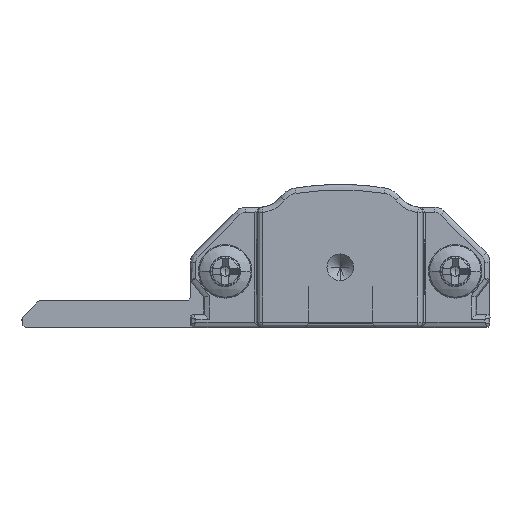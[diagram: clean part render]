
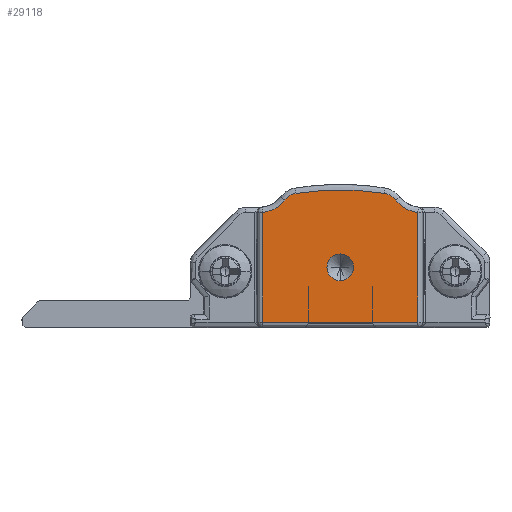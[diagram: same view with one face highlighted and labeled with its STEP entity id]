
A CAD part, front view. The second image highlights one B-rep face of the part: STEP entity #29118.
In plain terms, the highlighted planar face has unit normal (0, -1, 0).
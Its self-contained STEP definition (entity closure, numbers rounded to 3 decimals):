
#79 = VERTEX_POINT ( 'NONE', #14496 ) ;
#984 = DIRECTION ( 'NONE',  ( 0., 0., 1. ) ) ;
#1259 = EDGE_CURVE ( 'NONE', #16094, #79, #19007, .T. ) ;
#1314 = ORIENTED_EDGE ( 'NONE', *, *, #9106, .T. ) ;
#1353 = LINE ( 'NONE', #3546, #11746 ) ;
#1622 = DIRECTION ( 'NONE',  ( 0., -1., 0. ) ) ;
#2365 = AXIS2_PLACEMENT_3D ( 'NONE', #26762, #5553, #19247 ) ;
#2723 = CARTESIAN_POINT ( 'NONE',  ( 11.2, -15., 5.5 ) ) ;
#3368 = CIRCLE ( 'NONE', #30169, 20.676 ) ;
#3546 = CARTESIAN_POINT ( 'NONE',  ( 17., -15., 0.4 ) ) ;
#3773 = VECTOR ( 'NONE', #20934, 1000. ) ;
#3865 = AXIS2_PLACEMENT_3D ( 'NONE', #14636, #14788, #12318 ) ;
#4206 = EDGE_CURVE ( 'NONE', #21527, #24829, #21323, .T. ) ;
#5553 = DIRECTION ( 'NONE',  ( 0., 1., 0. ) ) ;
#5619 = DIRECTION ( 'NONE',  ( 0., 0., -1. ) ) ;
#6195 = CARTESIAN_POINT ( 'NONE',  ( 17., -15., 8.612 ) ) ;
#6278 = AXIS2_PLACEMENT_3D ( 'NONE', #8454, #20700, #13934 ) ;
#6612 = DIRECTION ( 'NONE',  ( 0., -1., 0. ) ) ;
#6657 = DIRECTION ( 'NONE',  ( 0., -1., 0. ) ) ;
#6888 = CARTESIAN_POINT ( 'NONE',  ( 11.2, -15., 3.5 ) ) ;
#7337 = ORIENTED_EDGE ( 'NONE', *, *, #9974, .T. ) ;
#7710 = CARTESIAN_POINT ( 'NONE',  ( 22.15, -15., 3.606 ) ) ;
#8454 = CARTESIAN_POINT ( 'NONE',  ( 14.3, -15., 8.75 ) ) ;
#8566 = CARTESIAN_POINT ( 'NONE',  ( 14.508, -15., 10.034 ) ) ;
#9106 = EDGE_CURVE ( 'NONE', #79, #26584, #1353, .T. ) ;
#9974 = EDGE_CURVE ( 'NONE', #27804, #28693, #21669, .T. ) ;
#10669 = FACE_OUTER_BOUND ( 'NONE', #23387, .T. ) ;
#10957 = DIRECTION ( 'NONE',  ( 1., 0., 0. ) ) ;
#11265 = AXIS2_PLACEMENT_3D ( 'NONE', #27779, #6612, #23012 ) ;
#11746 = VECTOR ( 'NONE', #10957, 1000. ) ;
#11869 = EDGE_CURVE ( 'NONE', #26584, #21559, #20173, .T. ) ;
#12223 = DIRECTION ( 'NONE',  ( 0., -1., 0. ) ) ;
#12318 = DIRECTION ( 'NONE',  ( 0., 0., -1. ) ) ;
#12979 = VERTEX_POINT ( 'NONE', #8566 ) ;
#13479 = EDGE_CURVE ( 'NONE', #28693, #16094, #23038, .T. ) ;
#13934 = DIRECTION ( 'NONE',  ( 0., 0., -1. ) ) ;
#14496 = CARTESIAN_POINT ( 'NONE',  ( 5.4, -15., 0.4 ) ) ;
#14583 = EDGE_LOOP ( 'NONE', ( #21845, #17404 ) ) ;
#14636 = CARTESIAN_POINT ( 'NONE',  ( 17.238, -15., 11. ) ) ;
#14788 = DIRECTION ( 'NONE',  ( 0., 1., 0. ) ) ;
#15077 = AXIS2_PLACEMENT_3D ( 'NONE', #23702, #6657, #28631 ) ;
#15358 = FACE_BOUND ( 'NONE', #14583, .T. ) ;
#16094 = VERTEX_POINT ( 'NONE', #23202 ) ;
#16443 = CIRCLE ( 'NONE', #3865, 2.4 ) ;
#16882 = CARTESIAN_POINT ( 'NONE',  ( 7.892, -15., 10.034 ) ) ;
#17166 = EDGE_CURVE ( 'NONE', #24829, #21527, #17291, .T. ) ;
#17291 = CIRCLE ( 'NONE', #17776, 1. ) ;
#17404 = ORIENTED_EDGE ( 'NONE', *, *, #17166, .F. ) ;
#17776 = AXIS2_PLACEMENT_3D ( 'NONE', #24086, #12223, #26948 ) ;
#19007 = LINE ( 'NONE', #30516, #3773 ) ;
#19099 = CARTESIAN_POINT ( 'NONE',  ( 17., -15., 8.612 ) ) ;
#19247 = DIRECTION ( 'NONE',  ( 0., 0., -1. ) ) ;
#19485 = ORIENTED_EDGE ( 'NONE', *, *, #1259, .T. ) ;
#20023 = VECTOR ( 'NONE', #984, 1000. ) ;
#20173 = LINE ( 'NONE', #6195, #20023 ) ;
#20700 = DIRECTION ( 'NONE',  ( 0., -1., 0. ) ) ;
#20934 = DIRECTION ( 'NONE',  ( 0., 0., -1. ) ) ;
#21110 = CARTESIAN_POINT ( 'NONE',  ( 17., -15., 0.4 ) ) ;
#21323 = CIRCLE ( 'NONE', #11265, 1. ) ;
#21527 = VERTEX_POINT ( 'NONE', #6888 ) ;
#21559 = VERTEX_POINT ( 'NONE', #19099 ) ;
#21669 = CIRCLE ( 'NONE', #15077, 1.3 ) ;
#21845 = ORIENTED_EDGE ( 'NONE', *, *, #4206, .F. ) ;
#22183 = PLANE ( 'NONE',  #23692 ) ;
#22915 = CARTESIAN_POINT ( 'NONE',  ( 11.2, -15., -10.376 ) ) ;
#23012 = DIRECTION ( 'NONE',  ( 0., 0., -1. ) ) ;
#23038 = CIRCLE ( 'NONE', #2365, 2.4 ) ;
#23202 = CARTESIAN_POINT ( 'NONE',  ( 5.4, -15., 8.612 ) ) ;
#23233 = DIRECTION ( 'NONE',  ( 0., 0., -1. ) ) ;
#23387 = EDGE_LOOP ( 'NONE', ( #27685, #26482, #28717, #26806, #7337, #27264, #19485, #1314 ) ) ;
#23692 = AXIS2_PLACEMENT_3D ( 'NONE', #7710, #26991, #5619 ) ;
#23702 = CARTESIAN_POINT ( 'NONE',  ( 8.1, -15., 8.75 ) ) ;
#24086 = CARTESIAN_POINT ( 'NONE',  ( 11.2, -15., 4.5 ) ) ;
#24505 = EDGE_CURVE ( 'NONE', #21559, #25704, #16443, .T. ) ;
#24829 = VERTEX_POINT ( 'NONE', #2723 ) ;
#25704 = VERTEX_POINT ( 'NONE', #29342 ) ;
#25768 = CARTESIAN_POINT ( 'NONE',  ( 7.068, -15., 9.541 ) ) ;
#25786 = EDGE_CURVE ( 'NONE', #25704, #12979, #28995, .T. ) ;
#26482 = ORIENTED_EDGE ( 'NONE', *, *, #24505, .T. ) ;
#26584 = VERTEX_POINT ( 'NONE', #21110 ) ;
#26762 = CARTESIAN_POINT ( 'NONE',  ( 5.162, -15., 11. ) ) ;
#26806 = ORIENTED_EDGE ( 'NONE', *, *, #27080, .T. ) ;
#26948 = DIRECTION ( 'NONE',  ( 0., 0., -1. ) ) ;
#26991 = DIRECTION ( 'NONE',  ( 0., -1., 0. ) ) ;
#27080 = EDGE_CURVE ( 'NONE', #12979, #27804, #3368, .T. ) ;
#27264 = ORIENTED_EDGE ( 'NONE', *, *, #13479, .T. ) ;
#27685 = ORIENTED_EDGE ( 'NONE', *, *, #11869, .T. ) ;
#27779 = CARTESIAN_POINT ( 'NONE',  ( 11.2, -15., 4.5 ) ) ;
#27804 = VERTEX_POINT ( 'NONE', #16882 ) ;
#28631 = DIRECTION ( 'NONE',  ( 0., 0., -1. ) ) ;
#28693 = VERTEX_POINT ( 'NONE', #25768 ) ;
#28717 = ORIENTED_EDGE ( 'NONE', *, *, #25786, .T. ) ;
#28995 = CIRCLE ( 'NONE', #6278, 1.3 ) ;
#29118 = ADVANCED_FACE ( 'NONE', ( #10669, #15358 ), #22183, .T. ) ;
#29342 = CARTESIAN_POINT ( 'NONE',  ( 15.332, -15., 9.541 ) ) ;
#30169 = AXIS2_PLACEMENT_3D ( 'NONE', #22915, #1622, #23233 ) ;
#30516 = CARTESIAN_POINT ( 'NONE',  ( 5.4, -15., 0.4 ) ) ;
